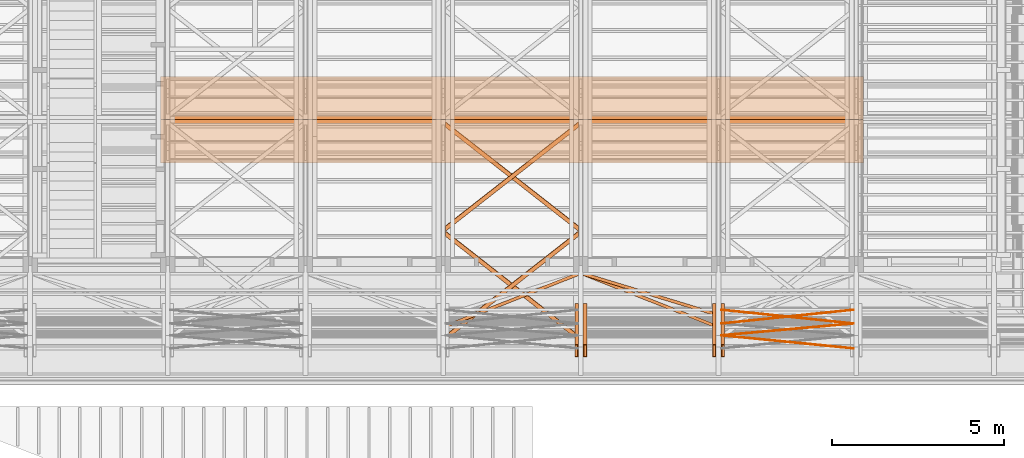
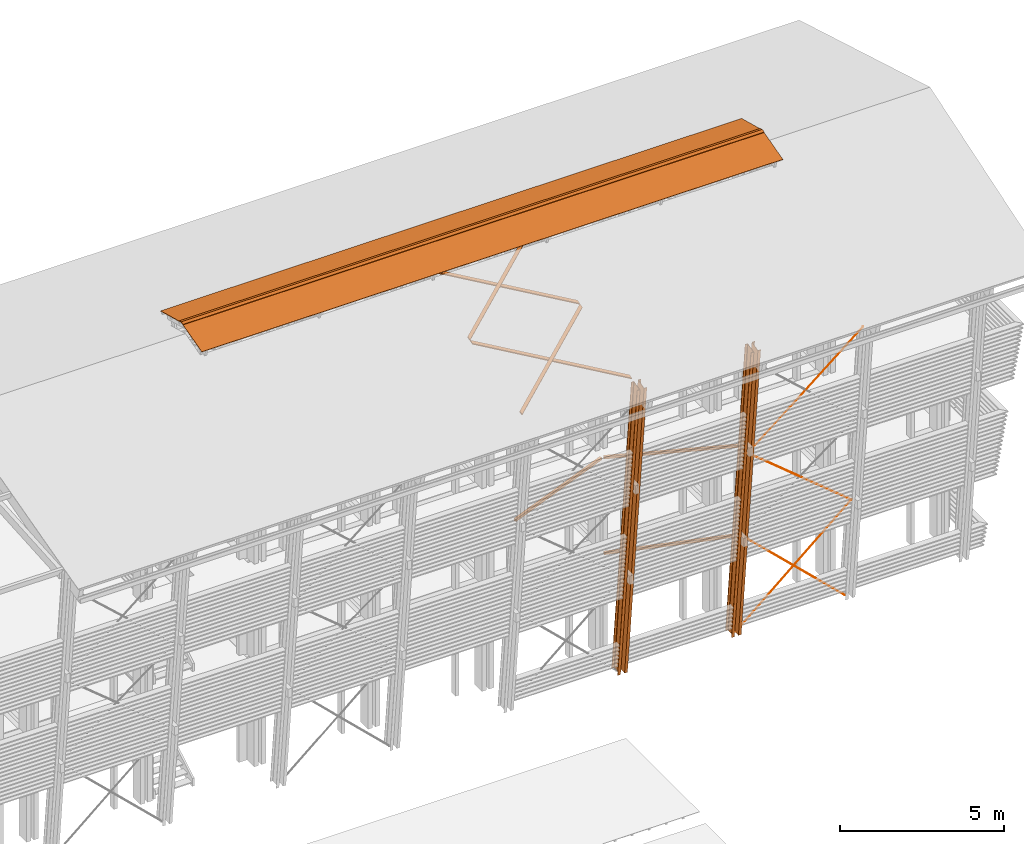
# One storey, part 44 of 48: 19 proxies, 2 elements without a shape of their own.
"""IFC2X3 building model written with IfcOpenShell, lengths in metres."""

from ifc_helpers import new_model, si_unit, direction, frame, origin_with_axes, place, context, subcontext, project, spatial, faceted_brep, material, element, aggregate, save


model = new_model("IFC2X3")

# Units and contexts
model_context = context("Model", 3, precision=1e-06, world=origin_with_axes(), true_north=direction((0.0, 1.0, 0.0)))
body_context = subcontext(model_context, "Body", "Model", "MODEL_VIEW")
ifc_project = project(units=[si_unit("LENGTHUNIT", "METRE"), si_unit("AREAUNIT", "SQUARE_METRE"), si_unit("VOLUMEUNIT", "CUBIC_METRE"), si_unit("PLANEANGLEUNIT", "RADIAN")], contexts=[model_context])

# Site, building, storey
site_placement = place(None, origin_with_axes())
site = spatial("IfcSite", under=ifc_project, at=site_placement, CompositionType="ELEMENT")
building_placement = place(site_placement, origin_with_axes())
building = spatial("IfcBuilding", under=site, at=building_placement, Name="Building 1", CompositionType="ELEMENT")
storey_placement = place(building_placement, origin_with_axes())
storey = spatial("IfcBuildingStorey", under=building, at=storey_placement, Name="Storey 1", CompositionType="ELEMENT", Elevation=0.0)

# Proxies
ifc_material_1 = material(Name="Acier")
proxy_1_placement = place(storey_placement, frame((61.5737445, -194.7381746, 0.3), z_axis=(-0.7050562, -0.0741265, 0.7052666), x_axis=(0.7091514, -0.0736984, 0.7011938)))
element("IfcBuildingElementProxy", 1, at=proxy_1_placement, inside=storey, material=ifc_material_1, Name="CVLP", context=body_context, shape_type="Brep", body=[
    faceted_brep([(5.4036414, -0.0093969, 0.0034202), (0.0, -0.01, 0.0), (5.4036414, -0.01, 0.0), (0.0, -0.0093969, -0.0034202), (5.4036414, -0.0093969, -0.0034202), (0.0, -0.0076604, -0.0064279), (5.4036414, -0.0076604, -0.0064279), (0.0, -0.005, -0.0086603), (5.4036414, -0.005, -0.0086603), (0.0, -0.0017365, -0.0098481), (5.4036414, -0.0017365, -0.0098481), (0.0, 0.0017365, -0.0098481), (5.4036414, 0.0017365, -0.0098481), (0.0, 0.005, -0.0086603), (5.4036414, 0.005, -0.0086603), (0.0, 0.0076604, -0.0064279), (5.4036414, 0.0076604, -0.0064279), (0.0, 0.0093969, -0.0034202), (5.4036414, 0.0093969, -0.0034202), (0.0, 0.01, 0.0), (5.4036414, 0.01, 0.0), (0.0, 0.0093969, 0.0034202), (5.4036414, 0.0093969, 0.0034202), (0.0, 0.0076604, 0.0064279), (5.4036414, 0.0076604, 0.0064279), (0.0, 0.005, 0.0086603), (5.4036414, 0.005, 0.0086603), (0.0, 0.0017365, 0.0098481), (5.4036414, 0.0017365, 0.0098481), (0.0, -0.0017365, 0.0098481), (5.4036414, -0.0017365, 0.0098481), (0.0, -0.005, 0.0086603), (5.4036414, -0.005, 0.0086603), (0.0, -0.0076604, 0.0064279), (5.4036414, -0.0076604, 0.0064279), (0.0, -0.0093969, 0.0034202)], [[[0, 1, 2]], [[2, 1, 3]], [[2, 3, 4]], [[4, 3, 5]], [[4, 5, 6]], [[6, 5, 7]], [[6, 7, 8]], [[8, 7, 9]], [[8, 9, 10]], [[10, 9, 11]], [[10, 11, 12]], [[12, 11, 13]], [[12, 13, 14]], [[14, 13, 15]], [[14, 15, 16]], [[16, 15, 17]], [[16, 17, 18]], [[18, 17, 19]], [[18, 19, 20]], [[20, 19, 21]], [[20, 21, 22]], [[22, 21, 23]], [[22, 23, 24]], [[24, 23, 25]], [[24, 25, 26]], [[26, 25, 27]], [[26, 27, 28]], [[28, 27, 29]], [[28, 29, 30]], [[30, 29, 31]], [[30, 31, 32]], [[32, 31, 33]], [[32, 33, 34]], [[34, 33, 35]], [[34, 35, 0]], [[0, 35, 1]], [[10, 12, 8]], [[8, 12, 14]], [[8, 14, 6]], [[6, 14, 16]], [[6, 16, 4]], [[4, 16, 18]], [[4, 18, 2]], [[2, 18, 20]], [[2, 20, 0]], [[0, 20, 22]], [[0, 22, 34]], [[34, 22, 24]], [[34, 24, 32]], [[32, 24, 26]], [[32, 26, 30]], [[30, 26, 28]], [[29, 27, 31]], [[31, 27, 25]], [[31, 25, 33]], [[33, 25, 23]], [[33, 23, 35]], [[35, 23, 21]], [[35, 21, 1]], [[1, 21, 19]], [[1, 19, 3]], [[3, 19, 17]], [[3, 17, 5]], [[5, 17, 15]], [[5, 15, 7]], [[7, 15, 13]], [[7, 13, 9]], [[9, 13, 11]]]),
])
proxy_2_placement = place(storey_placement, frame((61.5737445, -195.4811564, 7.369), z_axis=(-0.6859491, -0.0760601, 0.7236634), x_axis=(0.7276496, -0.0717012, 0.6821914)))
element("IfcBuildingElementProxy", 2, at=proxy_2_placement, inside=storey, material=ifc_material_1, Name="CVLP", context=body_context, shape_type="Brep", body=[
    faceted_brep([(5.2662712, -0.0093969, 0.0034202), (0.0, -0.01, 0.0), (5.2662712, -0.01, 0.0), (0.0, -0.0093969, -0.0034202), (5.2662712, -0.0093969, -0.0034202), (0.0, -0.0076604, -0.0064279), (5.2662712, -0.0076604, -0.0064279), (0.0, -0.005, -0.0086603), (5.2662712, -0.005, -0.0086603), (0.0, -0.0017365, -0.0098481), (5.2662712, -0.0017365, -0.0098481), (0.0, 0.0017365, -0.0098481), (5.2662712, 0.0017365, -0.0098481), (0.0, 0.005, -0.0086603), (5.2662712, 0.005, -0.0086603), (0.0, 0.0076604, -0.0064279), (5.2662712, 0.0076604, -0.0064279), (0.0, 0.0093969, -0.0034202), (5.2662712, 0.0093969, -0.0034202), (0.0, 0.01, 0.0), (5.2662712, 0.01, 0.0), (0.0, 0.0093969, 0.0034202), (5.2662712, 0.0093969, 0.0034202), (0.0, 0.0076604, 0.0064279), (5.2662712, 0.0076604, 0.0064279), (0.0, 0.005, 0.0086603), (5.2662712, 0.005, 0.0086603), (0.0, 0.0017365, 0.0098481), (5.2662712, 0.0017365, 0.0098481), (0.0, -0.0017365, 0.0098481), (5.2662712, -0.0017365, 0.0098481), (0.0, -0.005, 0.0086603), (5.2662712, -0.005, 0.0086603), (0.0, -0.0076604, 0.0064279), (5.2662712, -0.0076604, 0.0064279), (0.0, -0.0093969, 0.0034202)], [[[0, 1, 2]], [[2, 1, 3]], [[2, 3, 4]], [[4, 3, 5]], [[4, 5, 6]], [[6, 5, 7]], [[6, 7, 8]], [[8, 7, 9]], [[8, 9, 10]], [[10, 9, 11]], [[10, 11, 12]], [[12, 11, 13]], [[12, 13, 14]], [[14, 13, 15]], [[14, 15, 16]], [[16, 15, 17]], [[16, 17, 18]], [[18, 17, 19]], [[18, 19, 20]], [[20, 19, 21]], [[20, 21, 22]], [[22, 21, 23]], [[22, 23, 24]], [[24, 23, 25]], [[24, 25, 26]], [[26, 25, 27]], [[26, 27, 28]], [[28, 27, 29]], [[28, 29, 30]], [[30, 29, 31]], [[30, 31, 32]], [[32, 31, 33]], [[32, 33, 34]], [[34, 33, 35]], [[34, 35, 0]], [[0, 35, 1]], [[10, 12, 8]], [[8, 12, 14]], [[8, 14, 6]], [[6, 14, 16]], [[6, 16, 4]], [[4, 16, 18]], [[4, 18, 2]], [[2, 18, 20]], [[2, 20, 0]], [[0, 20, 22]], [[0, 22, 34]], [[34, 22, 24]], [[34, 24, 32]], [[32, 24, 26]], [[32, 26, 30]], [[30, 26, 28]], [[29, 27, 31]], [[31, 27, 25]], [[31, 25, 33]], [[33, 25, 23]], [[33, 23, 35]], [[35, 23, 21]], [[35, 21, 1]], [[1, 21, 19]], [[1, 19, 3]], [[3, 19, 17]], [[3, 17, 5]], [[5, 17, 15]], [[5, 15, 7]], [[7, 15, 13]], [[7, 13, 9]], [[9, 13, 11]]]),
])
proxy_3_placement = place(storey_placement, frame((65.4057445, -195.1364145, 4.089), z_axis=(0.6523288, -0.0792259, 0.753784), x_axis=(-0.7579361, -0.0681869, 0.6487553)))
element("IfcBuildingElementProxy", 3, at=proxy_3_placement, inside=storey, material=ifc_material_1, Name="CVLP", context=body_context, shape_type="Brep", body=[
    faceted_brep([(5.0558353, -0.0093969, 0.0034202), (0.0, -0.01, 0.0), (5.0558353, -0.01, 0.0), (0.0, -0.0093969, -0.0034202), (5.0558353, -0.0093969, -0.0034202), (0.0, -0.0076604, -0.0064279), (5.0558353, -0.0076604, -0.0064279), (0.0, -0.005, -0.0086603), (5.0558353, -0.005, -0.0086603), (0.0, -0.0017365, -0.0098481), (5.0558353, -0.0017365, -0.0098481), (0.0, 0.0017365, -0.0098481), (5.0558353, 0.0017365, -0.0098481), (0.0, 0.005, -0.0086603), (5.0558353, 0.005, -0.0086603), (0.0, 0.0076604, -0.0064279), (5.0558353, 0.0076604, -0.0064279), (0.0, 0.0093969, -0.0034202), (5.0558353, 0.0093969, -0.0034202), (0.0, 0.01, 0.0), (5.0558353, 0.01, 0.0), (0.0, 0.0093969, 0.0034202), (5.0558353, 0.0093969, 0.0034202), (0.0, 0.0076604, 0.0064279), (5.0558353, 0.0076604, 0.0064279), (0.0, 0.005, 0.0086603), (5.0558353, 0.005, 0.0086603), (0.0, 0.0017365, 0.0098481), (5.0558353, 0.0017365, 0.0098481), (0.0, -0.0017365, 0.0098481), (5.0558353, -0.0017365, 0.0098481), (0.0, -0.005, 0.0086603), (5.0558353, -0.005, 0.0086603), (0.0, -0.0076604, 0.0064279), (5.0558353, -0.0076604, 0.0064279), (0.0, -0.0093969, 0.0034202)], [[[0, 1, 2]], [[2, 1, 3]], [[2, 3, 4]], [[4, 3, 5]], [[4, 5, 6]], [[6, 5, 7]], [[6, 7, 8]], [[8, 7, 9]], [[8, 9, 10]], [[10, 9, 11]], [[10, 11, 12]], [[12, 11, 13]], [[12, 13, 14]], [[14, 13, 15]], [[14, 15, 16]], [[16, 15, 17]], [[16, 17, 18]], [[18, 17, 19]], [[18, 19, 20]], [[20, 19, 21]], [[20, 21, 22]], [[22, 21, 23]], [[22, 23, 24]], [[24, 23, 25]], [[24, 25, 26]], [[26, 25, 27]], [[26, 27, 28]], [[28, 27, 29]], [[28, 29, 30]], [[30, 29, 31]], [[30, 31, 32]], [[32, 31, 33]], [[32, 33, 34]], [[34, 33, 35]], [[34, 35, 0]], [[0, 35, 1]], [[10, 12, 8]], [[8, 12, 14]], [[8, 14, 6]], [[6, 14, 16]], [[6, 16, 4]], [[4, 16, 18]], [[4, 18, 2]], [[2, 18, 20]], [[2, 20, 0]], [[0, 20, 22]], [[0, 22, 34]], [[34, 22, 24]], [[34, 24, 32]], [[32, 24, 26]], [[32, 26, 30]], [[30, 26, 28]], [[29, 27, 31]], [[31, 27, 25]], [[31, 25, 33]], [[33, 25, 23]], [[33, 23, 35]], [[35, 23, 21]], [[35, 21, 1]], [[1, 21, 19]], [[1, 19, 3]], [[3, 19, 17]], [[3, 17, 5]], [[5, 17, 15]], [[5, 15, 7]], [[7, 15, 13]], [[7, 13, 9]], [[9, 13, 11]]]),
])
proxy_4_placement = place(storey_placement, frame((65.4057437, -194.7381746, 0.3), z_axis=(0.7050562, -0.0741265, 0.7052666), x_axis=(-0.7091514, -0.0736984, 0.7011938)))
element("IfcBuildingElementProxy", 4, at=proxy_4_placement, inside=storey, material=ifc_material_1, Name="CVLP", context=body_context, shape_type="Brep", body=[
    faceted_brep([(5.4036414, 0.0093969, -0.0034202), (0.0, 0.01, 0.0), (5.4036414, 0.01, 0.0), (0.0, 0.0093969, 0.0034202), (5.4036414, 0.0093969, 0.0034202), (0.0, 0.0076604, 0.0064279), (5.4036414, 0.0076604, 0.0064279), (0.0, 0.005, 0.0086603), (5.4036414, 0.005, 0.0086603), (0.0, 0.0017365, 0.0098481), (5.4036414, 0.0017365, 0.0098481), (0.0, -0.0017365, 0.0098481), (5.4036414, -0.0017365, 0.0098481), (0.0, -0.005, 0.0086603), (5.4036414, -0.005, 0.0086603), (0.0, -0.0076604, 0.0064279), (5.4036414, -0.0076604, 0.0064279), (0.0, -0.0093969, 0.0034202), (5.4036414, -0.0093969, 0.0034202), (0.0, -0.01, 0.0), (5.4036414, -0.01, 0.0), (0.0, -0.0093969, -0.0034202), (5.4036414, -0.0093969, -0.0034202), (0.0, -0.0076604, -0.0064279), (5.4036414, -0.0076604, -0.0064279), (0.0, -0.005, -0.0086603), (5.4036414, -0.005, -0.0086603), (0.0, -0.0017365, -0.0098481), (5.4036414, -0.0017365, -0.0098481), (0.0, 0.0017365, -0.0098481), (5.4036414, 0.0017365, -0.0098481), (0.0, 0.005, -0.0086603), (5.4036414, 0.005, -0.0086603), (0.0, 0.0076604, -0.0064279), (5.4036414, 0.0076604, -0.0064279), (0.0, 0.0093969, -0.0034202)], [[[0, 1, 2]], [[2, 1, 3]], [[2, 3, 4]], [[4, 3, 5]], [[4, 5, 6]], [[6, 5, 7]], [[6, 7, 8]], [[8, 7, 9]], [[8, 9, 10]], [[10, 9, 11]], [[10, 11, 12]], [[12, 11, 13]], [[12, 13, 14]], [[14, 13, 15]], [[14, 15, 16]], [[16, 15, 17]], [[16, 17, 18]], [[18, 17, 19]], [[18, 19, 20]], [[20, 19, 21]], [[20, 21, 22]], [[22, 21, 23]], [[22, 23, 24]], [[24, 23, 25]], [[24, 25, 26]], [[26, 25, 27]], [[26, 27, 28]], [[28, 27, 29]], [[28, 29, 30]], [[30, 29, 31]], [[30, 31, 32]], [[32, 31, 33]], [[32, 33, 34]], [[34, 33, 35]], [[34, 35, 0]], [[0, 35, 1]], [[10, 12, 8]], [[8, 12, 14]], [[8, 14, 6]], [[6, 14, 16]], [[6, 16, 4]], [[4, 16, 18]], [[4, 18, 2]], [[2, 18, 20]], [[2, 20, 0]], [[0, 20, 22]], [[0, 22, 34]], [[34, 22, 24]], [[34, 24, 32]], [[32, 24, 26]], [[32, 26, 30]], [[30, 26, 28]], [[29, 27, 31]], [[31, 27, 25]], [[31, 25, 33]], [[33, 25, 23]], [[33, 23, 35]], [[35, 23, 21]], [[35, 21, 1]], [[1, 21, 19]], [[1, 19, 3]], [[3, 19, 17]], [[3, 17, 5]], [[5, 17, 15]], [[5, 15, 7]], [[7, 15, 13]], [[7, 13, 9]], [[9, 13, 11]]]),
])
proxy_5_placement = place(storey_placement, frame((57.6107437, -195.9301471, 11.6408612), z_axis=(0.0, 0.9945219, 0.1045285), x_axis=(0.0, 0.1045285, -0.9945219)))
element("IfcBuildingElementProxy", 5, at=proxy_5_placement, inside=storey, material=ifc_material_1, Name="Poteau", context=body_context, shape_type="Brep", body=[
    faceted_brep([(0.0556479, 0.0367655, -0.161347), (0.0548889, 0.0375, -0.156555), (0.0601861, 0.051, -0.19), (0.0052972, 0.0375, 0.156555), (0.0, 0.051, 0.19), (0.0045382, 0.0367655, 0.161347), (0.0038489, 0.0346296, 0.165699), (0.0592057, -0.051, -0.18381), (0.0579402, -0.0433995, -0.17582), (0.0601861, -0.051, -0.19), (0.0574199, 0.022299, -0.172535), (0.0572658, 0.0270483, -0.1715622), (0.0568935, 0.0312883, -0.1692116), (0.0588262, -0.0506328, -0.181414), (0.0584816, -0.0495648, -0.179238), (0.0582034, -0.0478941, -0.1774817), (0.0580172, -0.0457742, -0.1763064), (0.0563372, 0.0346296, -0.165699), (0.0032926, 0.0312883, 0.1692116), (0.0029203, 0.0270483, 0.1715622), (0.0027662, 0.022299, 0.172535), (0.0, -0.051, 0.19), (0.0022459, -0.0433995, 0.17582), (0.0009804, -0.051, 0.18381), (0.0013599, -0.0506328, 0.181414), (0.0021689, -0.0457742, 0.1763064), (0.0019827, -0.0478941, 0.1774817), (0.0017045, -0.0495648, 0.179238), (11.420672, 0.0375, -0.156555), (11.420672, 0.0367655, -0.161347), (11.420672, 0.0346296, -0.165699), (11.420672, 0.0312883, -0.1692116), (11.420672, 0.0270483, -0.1715622), (11.420672, 0.022299, -0.172535), (11.420672, -0.0433995, -0.17582), (11.420672, -0.0457742, -0.1763064), (11.420672, -0.0478941, -0.1774817), (11.420672, -0.0495648, -0.179238), (11.420672, -0.0506328, -0.181414), (11.420672, -0.051, -0.18381), (11.420672, -0.051, -0.19), (11.420672, 0.051, -0.19), (11.420672, 0.051, 0.19), (11.420672, -0.051, 0.19), (11.420672, -0.051, 0.18381), (11.420672, -0.0506328, 0.181414), (11.420672, -0.0495648, 0.179238), (11.420672, -0.0478941, 0.1774817), (11.420672, -0.0457742, 0.1763064), (11.420672, -0.0433995, 0.17582), (11.420672, 0.022299, 0.172535), (11.420672, 0.0270483, 0.1715622), (11.420672, 0.0312883, 0.1692116), (11.420672, 0.0346296, 0.165699), (11.420672, 0.0367655, 0.161347), (11.420672, 0.0375, 0.156555)], [[[0, 1, 2]], [[2, 1, 3]], [[2, 3, 4]], [[4, 3, 5]], [[4, 5, 6]], [[7, 8, 9]], [[9, 8, 10]], [[9, 10, 2]], [[2, 10, 11]], [[2, 11, 12]], [[7, 13, 8]], [[8, 13, 14]], [[8, 14, 15]], [[15, 16, 8]], [[12, 17, 2]], [[2, 17, 0]], [[6, 18, 4]], [[4, 18, 19]], [[4, 19, 20]], [[4, 20, 21]], [[21, 20, 22]], [[21, 22, 23]], [[23, 22, 24]], [[25, 26, 22]], [[22, 26, 27]], [[22, 27, 24]], [[1, 0, 28]], [[28, 0, 29]], [[0, 17, 29]], [[29, 17, 30]], [[17, 12, 30]], [[30, 12, 31]], [[12, 11, 31]], [[31, 11, 32]], [[11, 10, 32]], [[32, 10, 33]], [[10, 8, 33]], [[33, 8, 34]], [[8, 16, 34]], [[34, 16, 35]], [[16, 15, 35]], [[35, 15, 36]], [[15, 14, 36]], [[36, 14, 37]], [[14, 13, 37]], [[37, 13, 38]], [[13, 7, 38]], [[38, 7, 39]], [[7, 9, 39]], [[39, 9, 40]], [[9, 2, 40]], [[40, 2, 41]], [[4, 42, 2]], [[2, 42, 41]], [[43, 42, 21]], [[21, 42, 4]], [[21, 23, 43]], [[43, 23, 44]], [[23, 24, 44]], [[44, 24, 45]], [[24, 27, 45]], [[45, 27, 46]], [[27, 26, 46]], [[46, 26, 47]], [[26, 25, 47]], [[47, 25, 48]], [[25, 22, 48]], [[48, 22, 49]], [[22, 20, 49]], [[49, 20, 50]], [[20, 19, 50]], [[50, 19, 51]], [[19, 18, 51]], [[51, 18, 52]], [[18, 6, 52]], [[52, 6, 53]], [[6, 5, 53]], [[53, 5, 54]], [[5, 3, 54]], [[54, 3, 55]], [[3, 1, 55]], [[55, 1, 28]], [[53, 54, 42]], [[42, 54, 55]], [[42, 55, 41]], [[41, 55, 28]], [[41, 28, 29]], [[44, 49, 43]], [[43, 49, 50]], [[43, 50, 42]], [[42, 50, 51]], [[42, 51, 52]], [[44, 45, 49]], [[49, 45, 46]], [[49, 46, 47]], [[47, 48, 49]], [[52, 53, 42]], [[29, 30, 41]], [[41, 30, 31]], [[41, 31, 32]], [[32, 33, 41]], [[41, 33, 40]], [[33, 34, 40]], [[40, 34, 39]], [[34, 35, 39]], [[39, 35, 36]], [[39, 36, 37]], [[37, 38, 39]]]),
])
proxy_6_placement = place(storey_placement, frame((61.3687437, -195.9301471, 11.6408612), z_axis=(0.0, 0.9945219, 0.1045285), x_axis=(0.0, 0.1045285, -0.9945219)))
element("IfcBuildingElementProxy", 6, at=proxy_6_placement, inside=storey, material=ifc_material_1, Name="Poteau", context=body_context, shape_type="Brep", body=[
    faceted_brep([(0.0588262, 0.0506328, -0.181414), (0.0592057, 0.051, -0.18381), (0.0579402, 0.0433995, -0.17582), (0.0601861, 0.051, -0.19), (0.0574199, -0.022299, -0.172535), (0.0601861, -0.051, -0.19), (0.0572658, -0.0270483, -0.1715622), (0.0568935, -0.0312883, -0.1692116), (0.0038489, -0.0346296, 0.165699), (0.0045382, -0.0367655, 0.161347), (0.0, -0.051, 0.19), (0.0052972, -0.0375, 0.156555), (0.0548889, -0.0375, -0.156555), (0.0556479, -0.0367655, -0.161347), (0.0009804, 0.051, 0.18381), (0.0022459, 0.0433995, 0.17582), (0.0, 0.051, 0.19), (0.0027662, -0.022299, 0.172535), (0.0029203, -0.0270483, 0.1715622), (0.0032926, -0.0312883, 0.1692116), (0.0013599, 0.0506328, 0.181414), (0.0017045, 0.0495648, 0.179238), (0.0019827, 0.0478941, 0.1774817), (0.0021689, 0.0457742, 0.1763064), (0.0563372, -0.0346296, -0.165699), (0.0580172, 0.0457742, -0.1763064), (0.0582034, 0.0478941, -0.1774817), (0.0584816, 0.0495648, -0.179238), (11.420672, 0.0433995, 0.17582), (11.420672, 0.0457742, 0.1763064), (11.420672, 0.0478941, 0.1774817), (11.420672, 0.0495648, 0.179238), (11.420672, 0.0506328, 0.181414), (11.420672, 0.051, 0.18381), (11.420672, 0.051, 0.19), (11.420672, -0.051, 0.19), (11.420672, -0.051, -0.19), (11.420672, 0.051, -0.19), (11.420672, 0.051, -0.18381), (11.420672, 0.0506328, -0.181414), (11.420672, 0.0495648, -0.179238), (11.420672, 0.0478941, -0.1774817), (11.420672, 0.0457742, -0.1763064), (11.420672, 0.0433995, -0.17582), (11.420672, -0.022299, -0.172535), (11.420672, -0.0270483, -0.1715622), (11.420672, -0.0312883, -0.1692116), (11.420672, -0.0346296, -0.165699), (11.420672, -0.0367655, -0.161347), (11.420672, -0.0375, -0.156555), (11.420672, -0.0375, 0.156555), (11.420672, -0.0367655, 0.161347), (11.420672, -0.0346296, 0.165699), (11.420672, -0.0312883, 0.1692116), (11.420672, -0.0270483, 0.1715622), (11.420672, -0.022299, 0.172535)], [[[0, 1, 2]], [[2, 1, 3]], [[2, 3, 4]], [[4, 3, 5]], [[4, 5, 6]], [[6, 5, 7]], [[8, 9, 10]], [[10, 9, 11]], [[10, 11, 5]], [[5, 11, 12]], [[5, 12, 13]], [[14, 15, 16]], [[16, 15, 17]], [[16, 17, 10]], [[10, 17, 18]], [[10, 18, 19]], [[14, 20, 15]], [[15, 20, 21]], [[15, 21, 22]], [[22, 23, 15]], [[19, 8, 10]], [[13, 24, 5]], [[5, 24, 7]], [[25, 26, 2]], [[2, 26, 27]], [[2, 27, 0]], [[15, 23, 28]], [[28, 23, 29]], [[23, 22, 29]], [[29, 22, 30]], [[22, 21, 30]], [[30, 21, 31]], [[21, 20, 31]], [[31, 20, 32]], [[20, 14, 32]], [[32, 14, 33]], [[16, 34, 14]], [[14, 34, 33]], [[10, 5, 35]], [[35, 5, 36]], [[5, 3, 36]], [[36, 3, 37]], [[1, 38, 3]], [[3, 38, 37]], [[1, 0, 38]], [[38, 0, 39]], [[0, 27, 39]], [[39, 27, 40]], [[27, 26, 40]], [[40, 26, 41]], [[26, 25, 41]], [[41, 25, 42]], [[25, 2, 42]], [[42, 2, 43]], [[4, 44, 2]], [[2, 44, 43]], [[4, 6, 44]], [[44, 6, 45]], [[6, 7, 45]], [[45, 7, 46]], [[7, 24, 46]], [[46, 24, 47]], [[24, 13, 47]], [[47, 13, 48]], [[13, 12, 48]], [[48, 12, 49]], [[11, 50, 12]], [[12, 50, 49]], [[11, 9, 50]], [[50, 9, 51]], [[9, 8, 51]], [[51, 8, 52]], [[8, 19, 52]], [[52, 19, 53]], [[19, 18, 53]], [[53, 18, 54]], [[18, 17, 54]], [[54, 17, 55]], [[15, 28, 17]], [[17, 28, 55]], [[35, 34, 10]], [[10, 34, 16]], [[48, 49, 36]], [[36, 49, 50]], [[36, 50, 35]], [[35, 50, 51]], [[35, 51, 52]], [[41, 42, 38]], [[38, 42, 43]], [[38, 43, 37]], [[37, 43, 44]], [[37, 44, 36]], [[36, 44, 45]], [[36, 45, 46]], [[39, 40, 38]], [[38, 40, 41]], [[46, 47, 36]], [[36, 47, 48]], [[52, 53, 35]], [[35, 53, 54]], [[35, 54, 55]], [[35, 55, 34]], [[34, 55, 28]], [[34, 28, 33]], [[33, 28, 32]], [[29, 30, 28]], [[28, 30, 31]], [[28, 31, 32]]]),
])
proxy_7_placement = place(storey_placement, frame((61.6107437, -195.9301471, 11.6408612), z_axis=(0.0, 0.9945219, 0.1045285), x_axis=(0.0, 0.1045285, -0.9945219)))
element("IfcBuildingElementProxy", 7, at=proxy_7_placement, inside=storey, material=ifc_material_1, Name="Poteau", context=body_context, shape_type="Brep", body=[
    faceted_brep([(0.0556479, 0.0367655, -0.161347), (0.0548889, 0.0375, -0.156555), (0.0601861, 0.051, -0.19), (0.0052972, 0.0375, 0.156555), (0.0, 0.051, 0.19), (0.0045382, 0.0367655, 0.161347), (0.0038489, 0.0346296, 0.165699), (0.0592057, -0.051, -0.18381), (0.0579402, -0.0433995, -0.17582), (0.0601861, -0.051, -0.19), (0.0574199, 0.022299, -0.172535), (0.0572658, 0.0270483, -0.1715622), (0.0568935, 0.0312883, -0.1692116), (0.0588262, -0.0506328, -0.181414), (0.0584816, -0.0495648, -0.179238), (0.0582034, -0.0478941, -0.1774817), (0.0580172, -0.0457742, -0.1763064), (0.0563372, 0.0346296, -0.165699), (0.0032926, 0.0312883, 0.1692116), (0.0029203, 0.0270483, 0.1715622), (0.0027662, 0.022299, 0.172535), (0.0, -0.051, 0.19), (0.0022459, -0.0433995, 0.17582), (0.0009804, -0.051, 0.18381), (0.0013599, -0.0506328, 0.181414), (0.0021689, -0.0457742, 0.1763064), (0.0019827, -0.0478941, 0.1774817), (0.0017045, -0.0495648, 0.179238), (11.420672, 0.0375, -0.156555), (11.420672, 0.0367655, -0.161347), (11.420672, 0.0346296, -0.165699), (11.420672, 0.0312883, -0.1692116), (11.420672, 0.0270483, -0.1715622), (11.420672, 0.022299, -0.172535), (11.420672, -0.0433995, -0.17582), (11.420672, -0.0457742, -0.1763064), (11.420672, -0.0478941, -0.1774817), (11.420672, -0.0495648, -0.179238), (11.420672, -0.0506328, -0.181414), (11.420672, -0.051, -0.18381), (11.420672, -0.051, -0.19), (11.420672, 0.051, -0.19), (11.420672, 0.051, 0.19), (11.420672, -0.051, 0.19), (11.420672, -0.051, 0.18381), (11.420672, -0.0506328, 0.181414), (11.420672, -0.0495648, 0.179238), (11.420672, -0.0478941, 0.1774817), (11.420672, -0.0457742, 0.1763064), (11.420672, -0.0433995, 0.17582), (11.420672, 0.022299, 0.172535), (11.420672, 0.0270483, 0.1715622), (11.420672, 0.0312883, 0.1692116), (11.420672, 0.0346296, 0.165699), (11.420672, 0.0367655, 0.161347), (11.420672, 0.0375, 0.156555)], [[[0, 1, 2]], [[2, 1, 3]], [[2, 3, 4]], [[4, 3, 5]], [[4, 5, 6]], [[7, 8, 9]], [[9, 8, 10]], [[9, 10, 2]], [[2, 10, 11]], [[2, 11, 12]], [[7, 13, 8]], [[8, 13, 14]], [[8, 14, 15]], [[15, 16, 8]], [[12, 17, 2]], [[2, 17, 0]], [[6, 18, 4]], [[4, 18, 19]], [[4, 19, 20]], [[4, 20, 21]], [[21, 20, 22]], [[21, 22, 23]], [[23, 22, 24]], [[25, 26, 22]], [[22, 26, 27]], [[22, 27, 24]], [[1, 0, 28]], [[28, 0, 29]], [[0, 17, 29]], [[29, 17, 30]], [[17, 12, 30]], [[30, 12, 31]], [[12, 11, 31]], [[31, 11, 32]], [[11, 10, 32]], [[32, 10, 33]], [[10, 8, 33]], [[33, 8, 34]], [[8, 16, 34]], [[34, 16, 35]], [[16, 15, 35]], [[35, 15, 36]], [[15, 14, 36]], [[36, 14, 37]], [[14, 13, 37]], [[37, 13, 38]], [[13, 7, 38]], [[38, 7, 39]], [[7, 9, 39]], [[39, 9, 40]], [[9, 2, 40]], [[40, 2, 41]], [[4, 42, 2]], [[2, 42, 41]], [[43, 42, 21]], [[21, 42, 4]], [[21, 23, 43]], [[43, 23, 44]], [[23, 24, 44]], [[44, 24, 45]], [[24, 27, 45]], [[45, 27, 46]], [[27, 26, 46]], [[46, 26, 47]], [[26, 25, 47]], [[47, 25, 48]], [[25, 22, 48]], [[48, 22, 49]], [[22, 20, 49]], [[49, 20, 50]], [[20, 19, 50]], [[50, 19, 51]], [[19, 18, 51]], [[51, 18, 52]], [[18, 6, 52]], [[52, 6, 53]], [[6, 5, 53]], [[53, 5, 54]], [[5, 3, 54]], [[54, 3, 55]], [[3, 1, 55]], [[55, 1, 28]], [[53, 54, 42]], [[42, 54, 55]], [[42, 55, 41]], [[41, 55, 28]], [[41, 28, 29]], [[44, 49, 43]], [[43, 49, 50]], [[43, 50, 42]], [[42, 50, 51]], [[42, 51, 52]], [[44, 45, 49]], [[49, 45, 46]], [[49, 46, 47]], [[47, 48, 49]], [[52, 53, 42]], [[29, 30, 41]], [[41, 30, 31]], [[41, 31, 32]], [[32, 33, 41]], [[41, 33, 40]], [[33, 34, 40]], [[40, 34, 39]], [[34, 35, 39]], [[39, 35, 36]], [[39, 36, 37]], [[37, 38, 39]]]),
])
proxy_8_placement = place(storey_placement, frame((57.3687437, -195.9301471, 11.6408612), z_axis=(0.0, 0.9945219, 0.1045285), x_axis=(0.0, 0.1045285, -0.9945219)))
element("IfcBuildingElementProxy", 8, at=proxy_8_placement, inside=storey, material=ifc_material_1, Name="Poteau", context=body_context, shape_type="Brep", body=[
    faceted_brep([(0.0588262, 0.0506328, -0.181414), (0.0592057, 0.051, -0.18381), (0.0579402, 0.0433995, -0.17582), (0.0601861, 0.051, -0.19), (0.0574199, -0.022299, -0.172535), (0.0601861, -0.051, -0.19), (0.0572658, -0.0270483, -0.1715622), (0.0568935, -0.0312883, -0.1692116), (0.0038489, -0.0346296, 0.165699), (0.0045382, -0.0367655, 0.161347), (0.0, -0.051, 0.19), (0.0052972, -0.0375, 0.156555), (0.0548889, -0.0375, -0.156555), (0.0556479, -0.0367655, -0.161347), (0.0009804, 0.051, 0.18381), (0.0022459, 0.0433995, 0.17582), (0.0, 0.051, 0.19), (0.0027662, -0.022299, 0.172535), (0.0029203, -0.0270483, 0.1715622), (0.0032926, -0.0312883, 0.1692116), (0.0013599, 0.0506328, 0.181414), (0.0017045, 0.0495648, 0.179238), (0.0019827, 0.0478941, 0.1774817), (0.0021689, 0.0457742, 0.1763064), (0.0563372, -0.0346296, -0.165699), (0.0580172, 0.0457742, -0.1763064), (0.0582034, 0.0478941, -0.1774817), (0.0584816, 0.0495648, -0.179238), (11.420672, 0.0433995, 0.17582), (11.420672, 0.0457742, 0.1763064), (11.420672, 0.0478941, 0.1774817), (11.420672, 0.0495648, 0.179238), (11.420672, 0.0506328, 0.181414), (11.420672, 0.051, 0.18381), (11.420672, 0.051, 0.19), (11.420672, -0.051, 0.19), (11.420672, -0.051, -0.19), (11.420672, 0.051, -0.19), (11.420672, 0.051, -0.18381), (11.420672, 0.0506328, -0.181414), (11.420672, 0.0495648, -0.179238), (11.420672, 0.0478941, -0.1774817), (11.420672, 0.0457742, -0.1763064), (11.420672, 0.0433995, -0.17582), (11.420672, -0.022299, -0.172535), (11.420672, -0.0270483, -0.1715622), (11.420672, -0.0312883, -0.1692116), (11.420672, -0.0346296, -0.165699), (11.420672, -0.0367655, -0.161347), (11.420672, -0.0375, -0.156555), (11.420672, -0.0375, 0.156555), (11.420672, -0.0367655, 0.161347), (11.420672, -0.0346296, 0.165699), (11.420672, -0.0312883, 0.1692116), (11.420672, -0.0270483, 0.1715622), (11.420672, -0.022299, 0.172535)], [[[0, 1, 2]], [[2, 1, 3]], [[2, 3, 4]], [[4, 3, 5]], [[4, 5, 6]], [[6, 5, 7]], [[8, 9, 10]], [[10, 9, 11]], [[10, 11, 5]], [[5, 11, 12]], [[5, 12, 13]], [[14, 15, 16]], [[16, 15, 17]], [[16, 17, 10]], [[10, 17, 18]], [[10, 18, 19]], [[14, 20, 15]], [[15, 20, 21]], [[15, 21, 22]], [[22, 23, 15]], [[19, 8, 10]], [[13, 24, 5]], [[5, 24, 7]], [[25, 26, 2]], [[2, 26, 27]], [[2, 27, 0]], [[15, 23, 28]], [[28, 23, 29]], [[23, 22, 29]], [[29, 22, 30]], [[22, 21, 30]], [[30, 21, 31]], [[21, 20, 31]], [[31, 20, 32]], [[20, 14, 32]], [[32, 14, 33]], [[16, 34, 14]], [[14, 34, 33]], [[10, 5, 35]], [[35, 5, 36]], [[5, 3, 36]], [[36, 3, 37]], [[1, 38, 3]], [[3, 38, 37]], [[1, 0, 38]], [[38, 0, 39]], [[0, 27, 39]], [[39, 27, 40]], [[27, 26, 40]], [[40, 26, 41]], [[26, 25, 41]], [[41, 25, 42]], [[25, 2, 42]], [[42, 2, 43]], [[4, 44, 2]], [[2, 44, 43]], [[4, 6, 44]], [[44, 6, 45]], [[6, 7, 45]], [[45, 7, 46]], [[7, 24, 46]], [[46, 24, 47]], [[24, 13, 47]], [[47, 13, 48]], [[13, 12, 48]], [[48, 12, 49]], [[11, 50, 12]], [[12, 50, 49]], [[11, 9, 50]], [[50, 9, 51]], [[9, 8, 51]], [[51, 8, 52]], [[8, 19, 52]], [[52, 19, 53]], [[19, 18, 53]], [[53, 18, 54]], [[18, 17, 54]], [[54, 17, 55]], [[15, 28, 17]], [[17, 28, 55]], [[35, 34, 10]], [[10, 34, 16]], [[48, 49, 36]], [[36, 49, 50]], [[36, 50, 35]], [[35, 50, 51]], [[35, 51, 52]], [[41, 42, 38]], [[38, 42, 43]], [[38, 43, 37]], [[37, 43, 44]], [[37, 44, 36]], [[36, 44, 45]], [[36, 45, 46]], [[39, 40, 38]], [[38, 40, 41]], [[46, 47, 36]], [[36, 47, 48]], [[52, 53, 35]], [[35, 53, 54]], [[35, 54, 55]], [[35, 55, 34]], [[34, 55, 28]], [[34, 28, 33]], [[33, 28, 32]], [[29, 30, 28]], [[28, 30, 31]], [[28, 31, 32]]]),
])
ifc_material_2 = material(Name="tôle")
proxy_9_placement = place(storey_placement, frame((65.6997441, -189.2651061, 14.1264788), z_axis=(0.0, -0.258819, 0.9659258), x_axis=(-1.0, 0.0, 0.0)))
element("IfcBuildingElementProxy", 9, at=proxy_9_placement, inside=storey, material=ifc_material_2, Name="Couverture", context=body_context, shape_type="Brep", body=[
    faceted_brep([(0.0, 0.05635, 0.0085), (20.42, 0.05635, 0.0085), (20.42, 0.0609051, -0.0085), (0.0, 0.0609051, -0.0085), (20.42, -0.0609051, 0.0085), (20.42, -0.05635, -0.0085), (0.0, -0.0609051, 0.0085), (0.0, -0.05635, -0.0085)], [[[0, 1, 2, 3]], [[1, 4, 5, 2]], [[4, 6, 7, 5]], [[6, 0, 3, 7]], [[1, 0, 6, 4]], [[7, 3, 2, 5]]]),
])
proxy_10_placement = place(storey_placement, frame((65.6997441, -189.1518464, 14.1264788), z_axis=(0.0, 0.258819, 0.9659258), x_axis=(-1.0, 0.0, 0.0)))
element("IfcBuildingElementProxy", 10, at=proxy_10_placement, inside=storey, material=ifc_material_2, Name="Couverture", context=body_context, shape_type="Brep", body=[
    faceted_brep([(0.0, 0.0609051, 0.0085), (20.42, 0.0609051, 0.0085), (20.42, 0.05635, -0.0085), (0.0, 0.05635, -0.0085), (20.42, -0.05635, 0.0085), (20.42, -0.0609051, -0.0085), (0.0, -0.05635, 0.0085), (0.0, -0.0609051, -0.0085)], [[[0, 1, 2, 3]], [[1, 4, 5, 2]], [[4, 6, 7, 5]], [[6, 0, 3, 7]], [[1, 0, 6, 4]], [[7, 3, 2, 5]]]),
])

# Roof, proxy
roof_1_placement = place(storey_placement, frame((65.6997441, -189.8341281, 13.9564101), z_axis=(0.0, -0.258819, 0.9659258), x_axis=(-1.0, 0.0, 0.0)))
roof_1 = element("IfcRoof", 11, at=roof_1_placement, inside=storey, Name="Roof - Couverture", ShapeType="NOTDEFINED")
proxy_11_placement = place(roof_1_placement, origin_with_axes())
proxy_11 = element("IfcBuildingElementProxy", 12, at=proxy_11_placement, material=ifc_material_2, Name="Couverture", context=body_context, shape_type="Brep", body=[
    faceted_brep([(0.0, 0.65, -0.0085), (0.0, 0.65, 0.0085), (20.42, 0.65, 0.0085), (20.42, 0.65, -0.0085), (0.0, -0.6454449, -0.0085), (0.0, -0.65, 0.0085), (20.42, -0.65, 0.0085), (20.42, -0.6454449, -0.0085)], [[[0, 1, 2, 3]], [[1, 0, 4, 5]], [[6, 5, 4, 7]], [[0, 3, 7, 4]], [[1, 5, 6, 2]], [[3, 2, 6, 7]]]),
])
aggregate(roof_1, [proxy_11])

roof_2_placement = place(storey_placement, frame((65.6997441, -188.5828244, 13.9564101), z_axis=(0.0, 0.258819, 0.9659258), x_axis=(-1.0, 0.0, 0.0)))
roof_2 = element("IfcRoof", 13, at=roof_2_placement, inside=storey, Name="Roof - Couverture", ShapeType="NOTDEFINED")
proxy_12_placement = place(roof_2_placement, origin_with_axes())
proxy_12 = element("IfcBuildingElementProxy", 14, at=proxy_12_placement, material=ifc_material_2, Name="Couverture", context=body_context, shape_type="Brep", body=[
    faceted_brep([(20.42, -0.65, -0.0085), (20.42, -0.65, 0.0085), (0.0, -0.65, 0.0085), (0.0, -0.65, -0.0085), (20.42, 0.6454449, -0.0085), (20.42, 0.65, 0.0085), (0.0, 0.65, 0.0085), (0.0, 0.6454449, -0.0085)], [[[0, 1, 2, 3]], [[1, 0, 4, 5]], [[6, 5, 4, 7]], [[0, 3, 7, 4]], [[6, 2, 1, 5]], [[3, 2, 6, 7]]]),
])
aggregate(roof_2, [proxy_12])

# Proxies
ifc_material_3 = material(Name="GL28h")
proxy_13_placement = place(storey_placement, frame((57.4575106, -192.402372, 12.5320609), z_axis=(0.6294478, 0.7505657, 0.2011135), x_axis=(-0.7770428, 0.6079999, 0.1629131)))
element("IfcBuildingElementProxy", 15, at=proxy_13_placement, inside=storey, material=ifc_material_3, Name="CVT", context=body_context, shape_type="Brep", body=[
    faceted_brep([(0.0, -0.0225, -0.06), (0.0972067, -0.0225, 0.06), (0.0972067, 0.0225, 0.06), (0.0, 0.0225, -0.06), (5.0647581, 0.0225, 0.06), (4.9675515, 0.0225, -0.06), (5.0647581, -0.0225, 0.06), (4.9675515, -0.0225, -0.06)], [[[0, 1, 2, 3]], [[3, 2, 4, 5]], [[2, 1, 6, 4]], [[5, 4, 6, 7]], [[1, 0, 7, 6]], [[0, 3, 5, 7]]]),
])
proxy_14_placement = place(storey_placement, frame((57.5422857, -193.6870595, 3.984), z_axis=(0.2909669, 0.9567331, 0.0), x_axis=(0.9567331, -0.2909669, 0.0)))
element("IfcBuildingElementProxy", 16, at=proxy_14_placement, inside=storey, material=ifc_material_3, Name="CVLP", context=body_context, shape_type="Brep", body=[
    faceted_brep([(4.071058, -0.045, -0.045), (4.071058, -0.045, 0.045), (0.0, -0.045, 0.045), (0.0, -0.045, -0.045), (4.071058, 0.045, 0.045), (0.0, 0.045, 0.045), (4.071058, 0.045, -0.045), (0.0, 0.045, -0.045)], [[[0, 1, 2, 3]], [[1, 4, 5, 2]], [[4, 6, 7, 5]], [[6, 0, 3, 7]], [[1, 0, 6, 4]], [[7, 3, 2, 5]]]),
])
proxy_15_placement = place(storey_placement, frame((53.5219764, -192.402372, 12.5320609), z_axis=(-0.6294478, 0.7505657, 0.2011135), x_axis=(0.7770428, 0.6079999, 0.1629131)))
element("IfcBuildingElementProxy", 17, at=proxy_15_placement, inside=storey, material=ifc_material_3, Name="CVT", context=body_context, shape_type="Brep", body=[
    faceted_brep([(0.0972067, 0.0225, 0.06), (0.0, 0.0225, -0.06), (0.0, -0.0225, -0.06), (0.0972067, -0.0225, 0.06), (4.9675515, -0.0225, -0.06), (5.0647581, -0.0225, 0.06), (5.0647581, 0.0225, 0.06), (4.9675515, 0.0225, -0.06)], [[[0, 1, 2, 3]], [[3, 2, 4, 5]], [[0, 3, 5, 6]], [[5, 4, 7, 6]], [[1, 0, 6, 7]], [[2, 1, 7, 4]]]),
])
for number, where, z_axis, x_axis in (
    (18, (57.5377471, -193.6854739, 7.544), (0.3666108, 0.9303744, 0.0), (0.9303744, -0.3666108, 0.0)),
    (19, (57.4417411, -193.6854739, 7.544), (-0.3666108, 0.9303744, 0.0), (-0.9303744, -0.3666108, 0.0)),
):
    element("IfcBuildingElementProxy", number, at=place(storey_placement, frame(where, z_axis=z_axis, x_axis=x_axis)), inside=storey, material=ifc_material_3, Name="CVLP", context=body_context, shape_type="Brep", body=[
        faceted_brep([(4.196153, -0.045, -0.045), (4.196153, -0.045, 0.045), (0.0, -0.045, 0.045), (0.0, -0.045, -0.045), (4.196153, 0.045, 0.045), (0.0, 0.045, 0.045), (4.196153, 0.045, -0.045), (0.0, 0.045, -0.045)], [[[0, 1, 2, 3]], [[1, 4, 5, 2]], [[4, 6, 7, 5]], [[6, 0, 3, 7]], [[1, 0, 6, 4]], [[7, 3, 2, 5]]]),
    ])
proxy_16_placement = place(storey_placement, frame((53.5219768, -195.5718121, 11.682812), z_axis=(-0.6294478, 0.7505657, 0.2011135), x_axis=(0.7770428, 0.6079999, 0.1629131)))
element("IfcBuildingElementProxy", 20, at=proxy_16_placement, inside=storey, material=ifc_material_3, Name="CVT", context=body_context, shape_type="Brep", body=[
    faceted_brep([(0.0972067, 0.0225, 0.06), (0.0, 0.0225, -0.06), (0.0, -0.0225, -0.06), (0.0972067, -0.0225, 0.06), (4.9675515, -0.0225, -0.06), (5.0647581, -0.0225, 0.06), (5.0647581, 0.0225, 0.06), (4.9675515, 0.0225, -0.06)], [[[0, 1, 2, 3]], [[3, 2, 4, 5]], [[0, 3, 5, 6]], [[5, 4, 7, 6]], [[1, 0, 6, 7]], [[2, 1, 7, 4]]]),
])
proxy_17_placement = place(storey_placement, frame((57.4575102, -195.5718121, 11.682812), z_axis=(0.6294478, 0.7505657, 0.2011135), x_axis=(-0.7770428, 0.6079999, 0.1629131)))
element("IfcBuildingElementProxy", 21, at=proxy_17_placement, inside=storey, material=ifc_material_3, Name="CVT", context=body_context, shape_type="Brep", body=[
    faceted_brep([(0.0, -0.0225, -0.06), (0.0972067, -0.0225, 0.06), (0.0972067, 0.0225, 0.06), (0.0, 0.0225, -0.06), (5.0647581, 0.0225, 0.06), (4.9675515, 0.0225, -0.06), (5.0647581, -0.0225, 0.06), (4.9675515, -0.0225, -0.06)], [[[0, 1, 2, 3]], [[3, 2, 4, 5]], [[2, 1, 6, 4]], [[5, 4, 6, 7]], [[1, 0, 7, 6]], [[0, 3, 5, 7]]]),
])

save(model, "model.ifc")
